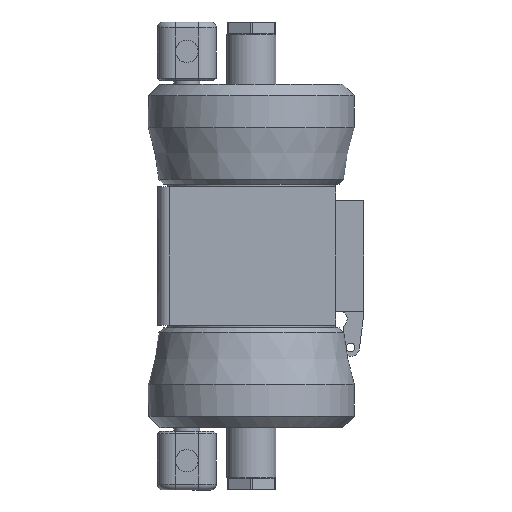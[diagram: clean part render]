
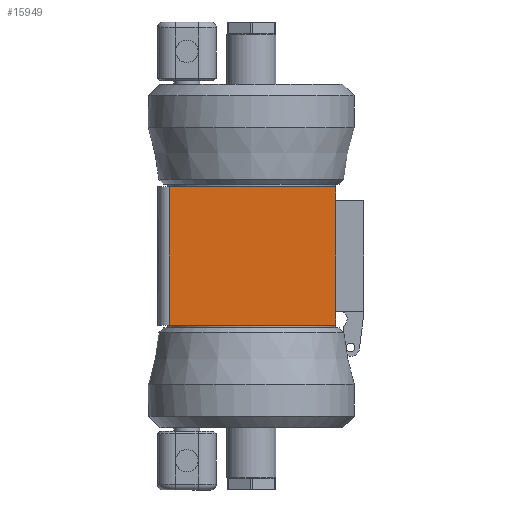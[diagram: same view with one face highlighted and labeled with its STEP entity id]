
A CAD part, left-side view. The second image highlights one B-rep face of the part: STEP entity #15949.
In plain terms, the highlighted planar face has unit normal (-1, 0, 0).
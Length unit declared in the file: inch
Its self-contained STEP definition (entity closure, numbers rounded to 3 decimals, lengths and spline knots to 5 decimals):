
#8843 = CARTESIAN_POINT ( 'NONE',  ( -1.868, -1.868, 1.538 ) ) ;
#8844 = CARTESIAN_POINT ( 'NONE',  ( -1.868, 2.069, 1.538 ) ) ;
#8848 = CARTESIAN_POINT ( 'NONE',  ( -1.868, 1.819, -1.538 ) ) ;
#8852 = DIRECTION ( 'NONE',  ( 0., -1., 0. ) ) ;
#8853 = CARTESIAN_POINT ( 'NONE',  ( -1.868, 2.069, -1.538 ) ) ;
#8855 = DIRECTION ( 'NONE',  ( 0., 0., -1. ) ) ;
#8856 = DIRECTION ( 'NONE',  ( 0., -1., 0. ) ) ;
#8857 = DIRECTION ( 'NONE',  ( 0., 0., -1. ) ) ;
#9640 = LINE ( 'NONE', #8853, #9648 ) ;
#9642 = LINE ( 'NONE', #8843, #9644 ) ;
#9643 = LINE ( 'NONE', #8844, #9645 ) ;
#9644 = VECTOR ( 'NONE', #8855, 39.37008 ) ;
#9645 = VECTOR ( 'NONE', #8852, 39.37008 ) ;
#9646 = LINE ( 'NONE', #8848, #9650 ) ;
#9648 = VECTOR ( 'NONE', #8856, 39.37008 ) ;
#9650 = VECTOR ( 'NONE', #8857, 39.37008 ) ;
#11630 = DIRECTION ( 'NONE',  ( 0., 0., -1. ) ) ;
#11631 = CARTESIAN_POINT ( 'NONE',  ( -1.868, -1.868, 1.538 ) ) ;
#12112 = CARTESIAN_POINT ( 'NONE',  ( -1.868, -1.868, 1.538 ) ) ;
#12125 = DIRECTION ( 'NONE',  ( 0., 0., -1. ) ) ;
#12596 = LINE ( 'NONE', #11631, #12598 ) ;
#12598 = VECTOR ( 'NONE', #11630, 39.37008 ) ;
#12729 = LINE ( 'NONE', #12112, #12741 ) ;
#12741 = VECTOR ( 'NONE', #12125, 39.37008 ) ;
#13355 = VERTEX_POINT ( 'NONE', #15405 ) ;
#13548 = VERTEX_POINT ( 'NONE', #15402 ) ;
#13550 = VERTEX_POINT ( 'NONE', #15407 ) ;
#13552 = VERTEX_POINT ( 'NONE', #15411 ) ;
#15402 = CARTESIAN_POINT ( 'NONE',  ( -1.868, -1.868, 1.23 ) ) ;
#15405 = CARTESIAN_POINT ( 'NONE',  ( -1.868, -1.868, 1.538 ) ) ;
#15407 = CARTESIAN_POINT ( 'NONE',  ( -1.868, -1.868, -1.23 ) ) ;
#15411 = CARTESIAN_POINT ( 'NONE',  ( -1.868, -1.868, -1.538 ) ) ;
#15949 = ADVANCED_FACE ( 'NONE', ( #29321 ), #30760, .F. ) ;
#17502 = VERTEX_POINT ( 'NONE', #35316 ) ;
#17509 = VERTEX_POINT ( 'NONE', #35323 ) ;
#24684 = EDGE_CURVE ( 'NONE', #17502, #13355, #9643, .T. ) ;
#24685 = EDGE_CURVE ( 'NONE', #13548, #13550, #9642, .T. ) ;
#24686 = EDGE_CURVE ( 'NONE', #17509, #13552, #9640, .T. ) ;
#24687 = EDGE_CURVE ( 'NONE', #17502, #17509, #9646, .T. ) ;
#25283 = EDGE_CURVE ( 'NONE', #13355, #13548, #12596, .T. ) ;
#27239 = EDGE_LOOP ( 'NONE', ( #27681, #27682, #27683, #27684, #27685, #27686 ) ) ;
#27681 = ORIENTED_EDGE ( 'NONE', *, *, #24687, .T. ) ;
#27682 = ORIENTED_EDGE ( 'NONE', *, *, #24686, .T. ) ;
#27683 = ORIENTED_EDGE ( 'NONE', *, *, #27783, .F. ) ;
#27684 = ORIENTED_EDGE ( 'NONE', *, *, #24685, .F. ) ;
#27685 = ORIENTED_EDGE ( 'NONE', *, *, #25283, .F. ) ;
#27686 = ORIENTED_EDGE ( 'NONE', *, *, #24684, .F. ) ;
#27783 = EDGE_CURVE ( 'NONE', #13550, #13552, #12729, .T. ) ;
#28151 = AXIS2_PLACEMENT_3D ( 'NONE', #30756, #30763, #30764 ) ;
#29321 = FACE_OUTER_BOUND ( 'NONE', #27239, .T. ) ;
#30756 = CARTESIAN_POINT ( 'NONE',  ( -1.868, 2.069, 1.538 ) ) ;
#30760 = PLANE ( 'NONE',  #28151 ) ;
#30763 = DIRECTION ( 'NONE',  ( 1., 0., 0. ) ) ;
#30764 = DIRECTION ( 'NONE',  ( 0., 1., 0. ) ) ;
#35316 = CARTESIAN_POINT ( 'NONE',  ( -1.868, 1.819, 1.538 ) ) ;
#35323 = CARTESIAN_POINT ( 'NONE',  ( -1.868, 1.819, -1.538 ) ) ;
